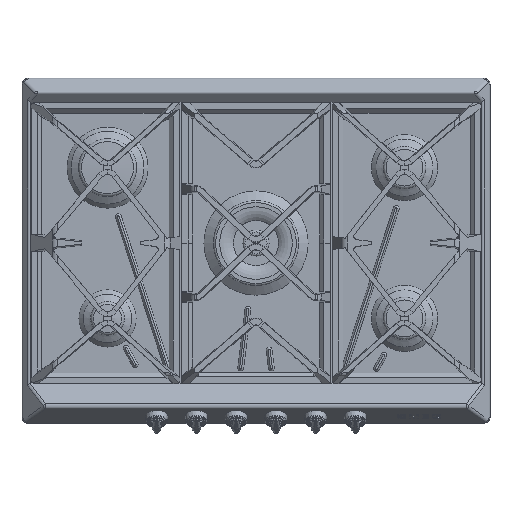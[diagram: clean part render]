
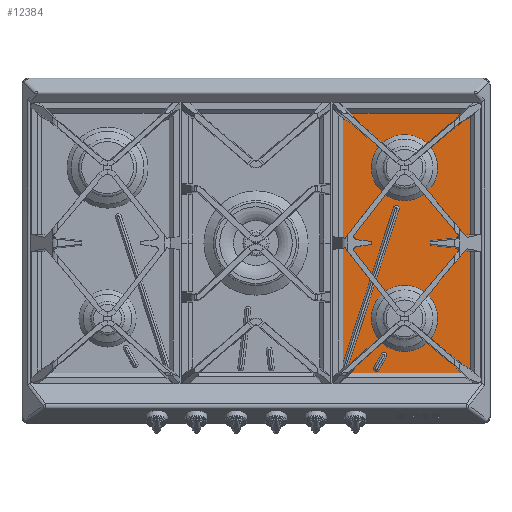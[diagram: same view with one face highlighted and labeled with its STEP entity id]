
A CAD part, top view. The second image highlights one B-rep face of the part: STEP entity #12384.
In plain terms, the highlighted planar face has unit normal (0, 0, 1).
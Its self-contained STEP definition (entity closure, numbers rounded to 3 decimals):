
#5874=LINE('',#93795,#8311);
#5875=LINE('',#93799,#8312);
#5876=LINE('',#93803,#8313);
#5877=LINE('',#93807,#8314);
#5878=LINE('',#93812,#8315);
#5879=LINE('',#93815,#8316);
#5880=LINE('',#93817,#8317);
#5881=LINE('',#93819,#8318);
#8311=VECTOR('',#53618,1.);
#8312=VECTOR('',#53621,1.);
#8313=VECTOR('',#53624,1.);
#8314=VECTOR('',#53627,1.);
#8315=VECTOR('',#53632,1.);
#8316=VECTOR('',#53633,1.);
#8317=VECTOR('',#53634,1.);
#8318=VECTOR('',#53635,1.);
#12384=ADVANCED_FACE('',(#14420,#14421,#14422,#14423,#14424),#13825,.T.);
#13825=PLANE('',#44250);
#14420=FACE_BOUND('',#16474,.T.);
#14421=FACE_BOUND('',#16475,.T.);
#14422=FACE_BOUND('',#16476,.T.);
#14423=FACE_BOUND('',#16477,.T.);
#14424=FACE_BOUND('',#16478,.T.);
#16474=EDGE_LOOP('',(#25312,#25313,#25314,#25315));
#16475=EDGE_LOOP('',(#25316,#25317,#25318,#25319));
#16476=EDGE_LOOP('',(#25320));
#16477=EDGE_LOOP('',(#25321));
#16478=EDGE_LOOP('',(#25322,#25323,#25324,#25325));
#25312=ORIENTED_EDGE('',*,*,#36873,.F.);
#25313=ORIENTED_EDGE('',*,*,#36874,.F.);
#25314=ORIENTED_EDGE('',*,*,#36875,.F.);
#25315=ORIENTED_EDGE('',*,*,#36876,.F.);
#25316=ORIENTED_EDGE('',*,*,#36877,.F.);
#25317=ORIENTED_EDGE('',*,*,#36878,.F.);
#25318=ORIENTED_EDGE('',*,*,#36879,.F.);
#25319=ORIENTED_EDGE('',*,*,#36880,.F.);
#25320=ORIENTED_EDGE('',*,*,#36881,.F.);
#25321=ORIENTED_EDGE('',*,*,#36882,.F.);
#25322=ORIENTED_EDGE('',*,*,#36883,.T.);
#25323=ORIENTED_EDGE('',*,*,#36884,.T.);
#25324=ORIENTED_EDGE('',*,*,#36885,.F.);
#25325=ORIENTED_EDGE('',*,*,#36886,.T.);
#31730=VERTEX_POINT('',#93793);
#31731=VERTEX_POINT('',#93794);
#31732=VERTEX_POINT('',#93796);
#31733=VERTEX_POINT('',#93798);
#31734=VERTEX_POINT('',#93801);
#31735=VERTEX_POINT('',#93802);
#31736=VERTEX_POINT('',#93804);
#31737=VERTEX_POINT('',#93806);
#31738=VERTEX_POINT('',#93809);
#31739=VERTEX_POINT('',#93811);
#31740=VERTEX_POINT('',#93813);
#31741=VERTEX_POINT('',#93814);
#31742=VERTEX_POINT('',#93816);
#31743=VERTEX_POINT('',#93818);
#36873=EDGE_CURVE('',#31730,#31731,#40393,.T.);
#36874=EDGE_CURVE('',#31732,#31730,#5874,.T.);
#36875=EDGE_CURVE('',#31733,#31732,#40394,.T.);
#36876=EDGE_CURVE('',#31731,#31733,#5875,.T.);
#36877=EDGE_CURVE('',#31734,#31735,#40395,.T.);
#36878=EDGE_CURVE('',#31736,#31734,#5876,.T.);
#36879=EDGE_CURVE('',#31737,#31736,#40396,.T.);
#36880=EDGE_CURVE('',#31735,#31737,#5877,.T.);
#36881=EDGE_CURVE('',#31738,#31738,#40397,.T.);
#36882=EDGE_CURVE('',#31739,#31739,#40398,.T.);
#36883=EDGE_CURVE('',#31740,#31741,#5878,.T.);
#36884=EDGE_CURVE('',#31741,#31742,#5879,.T.);
#36885=EDGE_CURVE('',#31743,#31742,#5880,.T.);
#36886=EDGE_CURVE('',#31743,#31740,#5881,.T.);
#40393=CIRCLE('',#44244,4.2);
#40394=CIRCLE('',#44245,4.2);
#40395=CIRCLE('',#44246,4.2);
#40396=CIRCLE('',#44247,4.2);
#40397=CIRCLE('',#44248,48.2);
#40398=CIRCLE('',#44249,48.2);
#44244=AXIS2_PLACEMENT_3D('',#93792,#53616,#53617);
#44245=AXIS2_PLACEMENT_3D('',#93797,#53619,#53620);
#44246=AXIS2_PLACEMENT_3D('',#93800,#53622,#53623);
#44247=AXIS2_PLACEMENT_3D('',#93805,#53625,#53626);
#44248=AXIS2_PLACEMENT_3D('',#93808,#53628,#53629);
#44249=AXIS2_PLACEMENT_3D('',#93810,#53630,#53631);
#44250=AXIS2_PLACEMENT_3D('',#93820,#53636,#53637);
#53616=DIRECTION('',(0.,0.,1.));
#53617=DIRECTION('',(1.,0.,0.));
#53618=DIRECTION('',(-0.485,-0.875,0.));
#53619=DIRECTION('',(0.,0.,1.));
#53620=DIRECTION('',(1.,0.,0.));
#53621=DIRECTION('',(0.485,0.875,0.));
#53622=DIRECTION('',(0.,0.,1.));
#53623=DIRECTION('',(1.,0.,0.));
#53624=DIRECTION('',(-0.309,-0.951,0.));
#53625=DIRECTION('',(0.,0.,1.));
#53626=DIRECTION('',(1.,0.,0.));
#53627=DIRECTION('',(0.309,0.951,0.));
#53628=DIRECTION('',(0.,0.,1.));
#53629=DIRECTION('',(1.,0.,0.));
#53630=DIRECTION('',(0.,0.,1.));
#53631=DIRECTION('',(1.,0.,0.));
#53632=DIRECTION('',(-1.,0.,0.));
#53633=DIRECTION('',(0.,-1.,0.));
#53634=DIRECTION('',(-1.,0.,0.));
#53635=DIRECTION('',(0.,1.,0.));
#53636=DIRECTION('',(0.,0.,1.));
#53637=DIRECTION('',(1.,0.,0.));
#93792=CARTESIAN_POINT('',(497.5,80.1,13.));
#93793=CARTESIAN_POINT('',(493.827,82.136,13.));
#93794=CARTESIAN_POINT('',(501.173,78.064,13.));
#93795=CARTESIAN_POINT('',(504.298,101.028,13.));
#93796=CARTESIAN_POINT('',(504.298,101.028,13.));
#93797=CARTESIAN_POINT('',(507.972,98.992,13.));
#93798=CARTESIAN_POINT('',(511.645,96.956,13.));
#93799=CARTESIAN_POINT('',(501.173,78.064,13.));
#93800=CARTESIAN_POINT('',(451.8,84.45,13.));
#93801=CARTESIAN_POINT('',(447.806,85.748,13.));
#93802=CARTESIAN_POINT('',(455.794,83.152,13.));
#93803=CARTESIAN_POINT('',(522.124,314.477,13.));
#93804=CARTESIAN_POINT('',(522.124,314.477,13.));
#93805=CARTESIAN_POINT('',(526.119,313.179,13.));
#93806=CARTESIAN_POINT('',(530.113,311.881,13.));
#93807=CARTESIAN_POINT('',(455.794,83.152,13.));
#93808=CARTESIAN_POINT('',(538.2,153.,13.));
#93809=CARTESIAN_POINT('',(586.4,153.,13.));
#93810=CARTESIAN_POINT('',(538.2,373.,13.));
#93811=CARTESIAN_POINT('',(586.4,373.,13.));
#93812=CARTESIAN_POINT('',(-20.,462.859,13.));
#93813=CARTESIAN_POINT('',(645.515,462.859,13.));
#93814=CARTESIAN_POINT('',(438.715,462.859,13.));
#93815=CARTESIAN_POINT('',(438.715,483.25,13.));
#93816=CARTESIAN_POINT('',(438.715,65.572,13.));
#93817=CARTESIAN_POINT('',(-20.,65.572,13.));
#93818=CARTESIAN_POINT('',(645.515,65.572,13.));
#93819=CARTESIAN_POINT('',(645.515,31.75,13.));
#93820=CARTESIAN_POINT('',(-20.,0.,13.));
